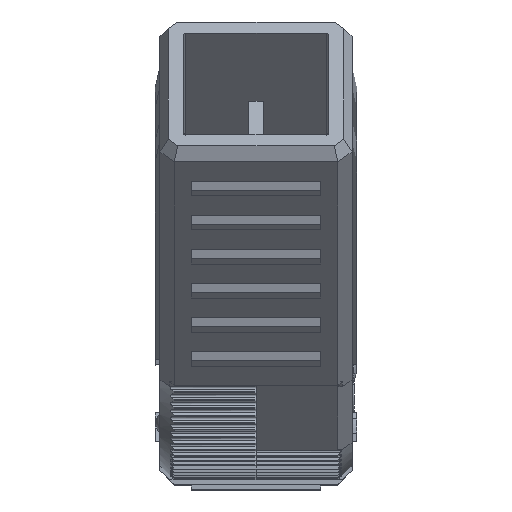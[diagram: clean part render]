
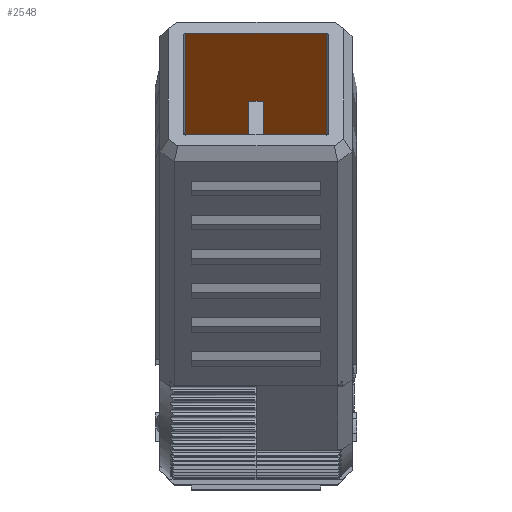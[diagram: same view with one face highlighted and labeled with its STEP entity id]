
A CAD part, top view. The second image highlights one B-rep face of the part: STEP entity #2548.
In plain terms, the highlighted planar face has unit normal (0, -0.707, 0.707) as drawn and (1, 0, 0) by its records, which use the part's own axes.
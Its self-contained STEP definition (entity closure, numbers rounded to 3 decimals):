
#203 = CARTESIAN_POINT ( 'NONE',  ( -7.5, 35., -7.3 ) ) ;
#233 = VERTEX_POINT ( 'NONE', #11955 ) ;
#290 = VECTOR ( 'NONE', #4710, 1000. ) ;
#298 = EDGE_CURVE ( 'NONE', #4397, #10951, #1618, .T. ) ;
#525 = FACE_OUTER_BOUND ( 'NONE', #9777, .T. ) ;
#541 = DIRECTION ( 'NONE',  ( 0., 0., 1. ) ) ;
#590 = EDGE_CURVE ( 'NONE', #7082, #10939, #1873, .T. ) ;
#1022 = CARTESIAN_POINT ( 'NONE',  ( -7.5, -19.246, -0.75 ) ) ;
#1266 = CARTESIAN_POINT ( 'NONE',  ( -7.5, -19.246, 0.75 ) ) ;
#1280 = VECTOR ( 'NONE', #541, 1000. ) ;
#1618 = LINE ( 'NONE', #1266, #3286 ) ;
#1742 = DIRECTION ( 'NONE',  ( 0., 0., 1. ) ) ;
#1864 = CARTESIAN_POINT ( 'NONE',  ( -7.5, 35., 7.5 ) ) ;
#1873 = LINE ( 'NONE', #1864, #2986 ) ;
#1917 = VECTOR ( 'NONE', #13903, 1000. ) ;
#1965 = ORIENTED_EDGE ( 'NONE', *, *, #2480, .F. ) ;
#2480 = EDGE_CURVE ( 'NONE', #11207, #10951, #11166, .T. ) ;
#2548 = ADVANCED_FACE ( 'NONE', ( #525 ), #10388, .F. ) ;
#2691 = VECTOR ( 'NONE', #12922, 1000. ) ;
#2698 = ORIENTED_EDGE ( 'NONE', *, *, #11110, .F. ) ;
#2986 = VECTOR ( 'NONE', #12549, 1000. ) ;
#3286 = VECTOR ( 'NONE', #3642, 1000. ) ;
#3642 = DIRECTION ( 'NONE',  ( 0., 1., 0. ) ) ;
#3984 = CARTESIAN_POINT ( 'NONE',  ( -7.5, 2., 7.5 ) ) ;
#4383 = DIRECTION ( 'NONE',  ( 0., -1., 0. ) ) ;
#4397 = VERTEX_POINT ( 'NONE', #6801 ) ;
#4638 = CARTESIAN_POINT ( 'NONE',  ( -7.5, 35., -7.3 ) ) ;
#4710 = DIRECTION ( 'NONE',  ( 0., 1., 0. ) ) ;
#5177 = ORIENTED_EDGE ( 'NONE', *, *, #5217, .F. ) ;
#5217 = EDGE_CURVE ( 'NONE', #11030, #11207, #12412, .T. ) ;
#5300 = AXIS2_PLACEMENT_3D ( 'NONE', #13849, #5605, #7786 ) ;
#5302 = CARTESIAN_POINT ( 'NONE',  ( -7.5, 25., -0.75 ) ) ;
#5482 = LINE ( 'NONE', #11383, #1917 ) ;
#5605 = DIRECTION ( 'NONE',  ( -1., 0., 0. ) ) ;
#5796 = CARTESIAN_POINT ( 'NONE',  ( -7.5, 35., 7.3 ) ) ;
#6440 = ORIENTED_EDGE ( 'NONE', *, *, #11855, .T. ) ;
#6801 = CARTESIAN_POINT ( 'NONE',  ( -7.5, 2., 0.75 ) ) ;
#6841 = EDGE_CURVE ( 'NONE', #13841, #11030, #5482, .T. ) ;
#7005 = LINE ( 'NONE', #3984, #10943 ) ;
#7082 = VERTEX_POINT ( 'NONE', #203 ) ;
#7786 = DIRECTION ( 'NONE',  ( 0., 0., 1. ) ) ;
#8001 = EDGE_CURVE ( 'NONE', #10939, #233, #13603, .T. ) ;
#8121 = ORIENTED_EDGE ( 'NONE', *, *, #8001, .T. ) ;
#8308 = LINE ( 'NONE', #4638, #2691 ) ;
#8760 = VECTOR ( 'NONE', #4383, 1000. ) ;
#9096 = ORIENTED_EDGE ( 'NONE', *, *, #590, .T. ) ;
#9777 = EDGE_LOOP ( 'NONE', ( #1965, #5177, #11093, #6440, #9096, #8121, #2698, #13203 ) ) ;
#10002 = CARTESIAN_POINT ( 'NONE',  ( -7.5, 2., -0.75 ) ) ;
#10127 = CARTESIAN_POINT ( 'NONE',  ( -7.5, 25., -0.75 ) ) ;
#10388 = PLANE ( 'NONE',  #5300 ) ;
#10669 = CARTESIAN_POINT ( 'NONE',  ( -7.5, 25., 0.75 ) ) ;
#10939 = VERTEX_POINT ( 'NONE', #5796 ) ;
#10943 = VECTOR ( 'NONE', #1742, 1000. ) ;
#10951 = VERTEX_POINT ( 'NONE', #10669 ) ;
#11030 = VERTEX_POINT ( 'NONE', #10002 ) ;
#11093 = ORIENTED_EDGE ( 'NONE', *, *, #6841, .F. ) ;
#11110 = EDGE_CURVE ( 'NONE', #4397, #233, #7005, .T. ) ;
#11151 = CARTESIAN_POINT ( 'NONE',  ( -7.5, 2., -7.3 ) ) ;
#11166 = LINE ( 'NONE', #10127, #1280 ) ;
#11207 = VERTEX_POINT ( 'NONE', #5302 ) ;
#11383 = CARTESIAN_POINT ( 'NONE',  ( -7.5, 2., 7.5 ) ) ;
#11690 = CARTESIAN_POINT ( 'NONE',  ( -7.5, 2., 7.3 ) ) ;
#11855 = EDGE_CURVE ( 'NONE', #13841, #7082, #8308, .T. ) ;
#11955 = CARTESIAN_POINT ( 'NONE',  ( -7.5, 2., 7.3 ) ) ;
#12412 = LINE ( 'NONE', #1022, #290 ) ;
#12549 = DIRECTION ( 'NONE',  ( 0., 0., 1. ) ) ;
#12922 = DIRECTION ( 'NONE',  ( 0., 1., 0. ) ) ;
#13203 = ORIENTED_EDGE ( 'NONE', *, *, #298, .T. ) ;
#13603 = LINE ( 'NONE', #11690, #8760 ) ;
#13841 = VERTEX_POINT ( 'NONE', #11151 ) ;
#13849 = CARTESIAN_POINT ( 'NONE',  ( -7.5, 2., 7.5 ) ) ;
#13903 = DIRECTION ( 'NONE',  ( 0., 0., 1. ) ) ;
